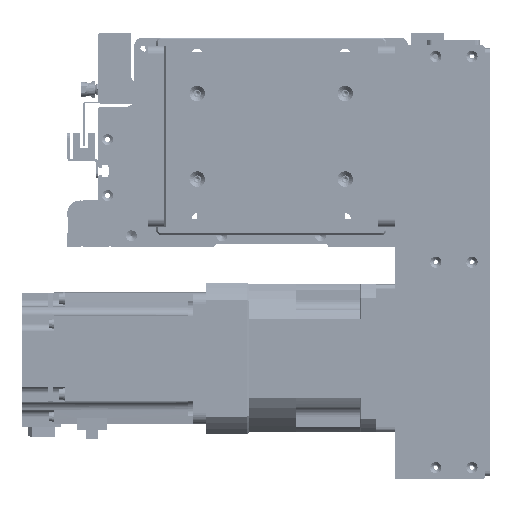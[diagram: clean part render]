
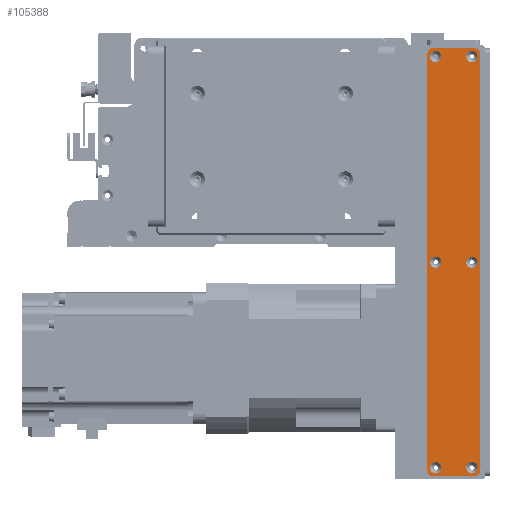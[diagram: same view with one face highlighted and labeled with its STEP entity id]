
A CAD part, front view. The second image highlights one B-rep face of the part: STEP entity #105388.
In plain terms, the highlighted planar face has unit normal (0, -1, 0).
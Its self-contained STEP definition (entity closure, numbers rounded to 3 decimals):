
#4093=FACE_BOUND('',#15602,.T.);
#4094=FACE_BOUND('',#15603,.T.);
#4095=FACE_BOUND('',#15604,.T.);
#4096=FACE_BOUND('',#15605,.T.);
#4097=FACE_BOUND('',#15606,.T.);
#4098=FACE_BOUND('',#15607,.T.);
#9388=FACE_OUTER_BOUND('',#15601,.T.);
#15601=EDGE_LOOP('',(#95128,#95129,#95130,#95131,#95132,#95133,#95134,#95135));
#15602=EDGE_LOOP('',(#95136));
#15603=EDGE_LOOP('',(#95137));
#15604=EDGE_LOOP('',(#95138));
#15605=EDGE_LOOP('',(#95139));
#15606=EDGE_LOOP('',(#95140));
#15607=EDGE_LOOP('',(#95141));
#18495=CIRCLE('',#114421,3.45);
#18498=CIRCLE('',#114426,3.45);
#18501=CIRCLE('',#114431,3.45);
#18504=CIRCLE('',#114436,3.45);
#18507=CIRCLE('',#114441,3.45);
#18510=CIRCLE('',#114446,3.45);
#18513=CIRCLE('',#114451,3.);
#18515=CIRCLE('',#114454,3.);
#18516=CIRCLE('',#114455,3.);
#18517=CIRCLE('',#114456,3.);
#29880=LINE('',#176969,#41360);
#29881=LINE('',#176973,#41361);
#29882=LINE('',#176977,#41362);
#29883=LINE('',#176980,#41363);
#41360=VECTOR('',#142161,10.);
#41361=VECTOR('',#142164,10.);
#41362=VECTOR('',#142167,10.);
#41363=VECTOR('',#142170,10.);
#51212=VERTEX_POINT('',#176899);
#51215=VERTEX_POINT('',#176909);
#51218=VERTEX_POINT('',#176919);
#51221=VERTEX_POINT('',#176929);
#51224=VERTEX_POINT('',#176939);
#51227=VERTEX_POINT('',#176949);
#51230=VERTEX_POINT('',#176959);
#51231=VERTEX_POINT('',#176960);
#51234=VERTEX_POINT('',#176968);
#51235=VERTEX_POINT('',#176970);
#51236=VERTEX_POINT('',#176972);
#51237=VERTEX_POINT('',#176974);
#51238=VERTEX_POINT('',#176976);
#51239=VERTEX_POINT('',#176978);
#65911=EDGE_CURVE('',#51212,#51212,#18495,.T.);
#65916=EDGE_CURVE('',#51215,#51215,#18498,.T.);
#65921=EDGE_CURVE('',#51218,#51218,#18501,.T.);
#65926=EDGE_CURVE('',#51221,#51221,#18504,.T.);
#65931=EDGE_CURVE('',#51224,#51224,#18507,.T.);
#65936=EDGE_CURVE('',#51227,#51227,#18510,.T.);
#65941=EDGE_CURVE('',#51230,#51231,#18513,.T.);
#65945=EDGE_CURVE('',#51230,#51234,#29880,.T.);
#65946=EDGE_CURVE('',#51235,#51234,#18515,.T.);
#65947=EDGE_CURVE('',#51235,#51236,#29881,.T.);
#65948=EDGE_CURVE('',#51237,#51236,#18516,.T.);
#65949=EDGE_CURVE('',#51237,#51238,#29882,.T.);
#65950=EDGE_CURVE('',#51239,#51238,#18517,.T.);
#65951=EDGE_CURVE('',#51239,#51231,#29883,.T.);
#95128=ORIENTED_EDGE('',*,*,#65941,.F.);
#95129=ORIENTED_EDGE('',*,*,#65945,.T.);
#95130=ORIENTED_EDGE('',*,*,#65946,.F.);
#95131=ORIENTED_EDGE('',*,*,#65947,.T.);
#95132=ORIENTED_EDGE('',*,*,#65948,.F.);
#95133=ORIENTED_EDGE('',*,*,#65949,.T.);
#95134=ORIENTED_EDGE('',*,*,#65950,.F.);
#95135=ORIENTED_EDGE('',*,*,#65951,.T.);
#95136=ORIENTED_EDGE('',*,*,#65911,.T.);
#95137=ORIENTED_EDGE('',*,*,#65916,.T.);
#95138=ORIENTED_EDGE('',*,*,#65921,.T.);
#95139=ORIENTED_EDGE('',*,*,#65926,.T.);
#95140=ORIENTED_EDGE('',*,*,#65931,.T.);
#95141=ORIENTED_EDGE('',*,*,#65936,.T.);
#100083=PLANE('',#114453);
#105388=ADVANCED_FACE('',(#9388,#4093,#4094,#4095,#4096,#4097,#4098),#100083,
 .T.);
#114421=AXIS2_PLACEMENT_3D('',#176900,#142081,#142082);
#114426=AXIS2_PLACEMENT_3D('',#176910,#142093,#142094);
#114431=AXIS2_PLACEMENT_3D('',#176920,#142105,#142106);
#114436=AXIS2_PLACEMENT_3D('',#176930,#142117,#142118);
#114441=AXIS2_PLACEMENT_3D('',#176940,#142129,#142130);
#114446=AXIS2_PLACEMENT_3D('',#176950,#142141,#142142);
#114451=AXIS2_PLACEMENT_3D('',#176961,#142153,#142154);
#114453=AXIS2_PLACEMENT_3D('',#176967,#142159,#142160);
#114454=AXIS2_PLACEMENT_3D('',#176971,#142162,#142163);
#114455=AXIS2_PLACEMENT_3D('',#176975,#142165,#142166);
#114456=AXIS2_PLACEMENT_3D('',#176979,#142168,#142169);
#142081=DIRECTION('center_axis',(0.,1.,0.));
#142082=DIRECTION('ref_axis',(1.,0.,0.));
#142093=DIRECTION('center_axis',(0.,1.,0.));
#142094=DIRECTION('ref_axis',(1.,0.,0.));
#142105=DIRECTION('center_axis',(0.,1.,0.));
#142106=DIRECTION('ref_axis',(1.,0.,0.));
#142117=DIRECTION('center_axis',(0.,1.,0.));
#142118=DIRECTION('ref_axis',(1.,0.,0.));
#142129=DIRECTION('center_axis',(0.,1.,0.));
#142130=DIRECTION('ref_axis',(1.,0.,0.));
#142141=DIRECTION('center_axis',(0.,1.,0.));
#142142=DIRECTION('ref_axis',(1.,0.,0.));
#142153=DIRECTION('center_axis',(0.,1.,0.));
#142154=DIRECTION('ref_axis',(-0.707,0.,0.707));
#142159=DIRECTION('center_axis',(0.,-1.,0.));
#142160=DIRECTION('ref_axis',(0.,0.,-1.));
#142161=DIRECTION('',(0.,0.,-1.));
#142162=DIRECTION('center_axis',(0.,1.,0.));
#142163=DIRECTION('ref_axis',(-0.707,0.,-0.707));
#142164=DIRECTION('',(1.,0.,0.));
#142165=DIRECTION('center_axis',(0.,1.,0.));
#142166=DIRECTION('ref_axis',(0.707,0.,-0.707));
#142167=DIRECTION('',(0.,0.,1.));
#142168=DIRECTION('center_axis',(0.,1.,0.));
#142169=DIRECTION('ref_axis',(0.707,0.,0.707));
#142170=DIRECTION('',(-1.,0.,0.));
#176899=CARTESIAN_POINT('',(121.55,-1.5,11.));
#176900=CARTESIAN_POINT('Origin',(125.,-1.5,11.));
#176909=CARTESIAN_POINT('',(-3.45,-1.5,11.));
#176910=CARTESIAN_POINT('Origin',(0.,-1.5,11.));
#176919=CARTESIAN_POINT('',(-128.45,-1.5,11.));
#176920=CARTESIAN_POINT('Origin',(-125.,-1.5,11.));
#176929=CARTESIAN_POINT('',(-128.45,-1.5,-11.));
#176930=CARTESIAN_POINT('Origin',(-125.,-1.5,-11.));
#176939=CARTESIAN_POINT('',(-3.45,-1.5,-11.));
#176940=CARTESIAN_POINT('Origin',(0.,-1.5,-11.));
#176949=CARTESIAN_POINT('',(121.55,-1.5,-11.));
#176950=CARTESIAN_POINT('Origin',(125.,-1.5,-11.));
#176959=CARTESIAN_POINT('',(-130.,-1.5,13.));
#176960=CARTESIAN_POINT('',(-127.,-1.5,16.));
#176961=CARTESIAN_POINT('Origin',(-127.,-1.5,13.));
#176967=CARTESIAN_POINT('Origin',(0.,-1.5,0.));
#176968=CARTESIAN_POINT('',(-130.,-1.5,-13.));
#176969=CARTESIAN_POINT('',(-130.,-1.5,16.));
#176970=CARTESIAN_POINT('',(-127.,-1.5,-16.));
#176971=CARTESIAN_POINT('Origin',(-127.,-1.5,-13.));
#176972=CARTESIAN_POINT('',(127.,-1.5,-16.));
#176973=CARTESIAN_POINT('',(-130.,-1.5,-16.));
#176974=CARTESIAN_POINT('',(130.,-1.5,-13.));
#176975=CARTESIAN_POINT('Origin',(127.,-1.5,-13.));
#176976=CARTESIAN_POINT('',(130.,-1.5,13.));
#176977=CARTESIAN_POINT('',(130.,-1.5,-16.));
#176978=CARTESIAN_POINT('',(127.,-1.5,16.));
#176979=CARTESIAN_POINT('Origin',(127.,-1.5,13.));
#176980=CARTESIAN_POINT('',(130.,-1.5,16.));
